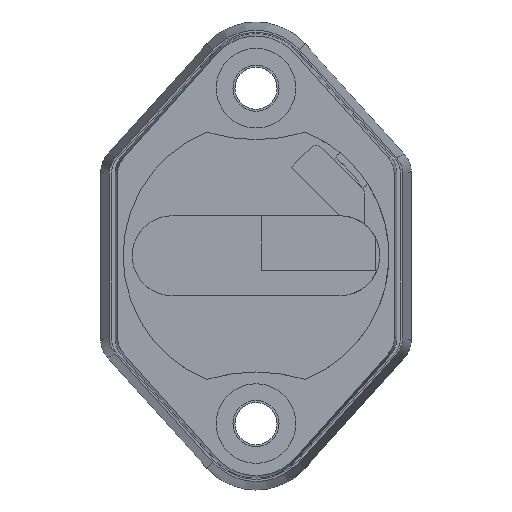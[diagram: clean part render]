
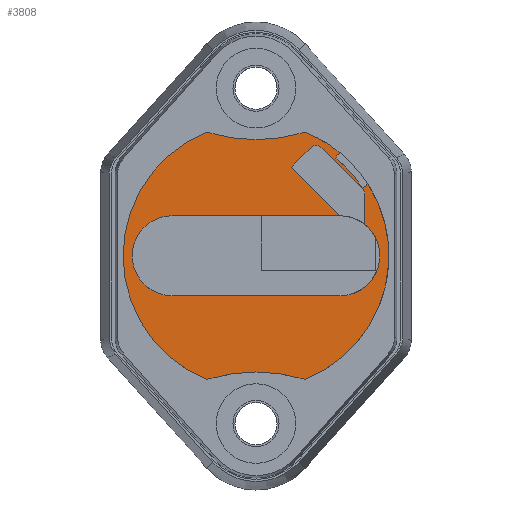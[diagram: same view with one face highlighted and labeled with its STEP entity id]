
A CAD part, top view. The second image highlights one B-rep face of the part: STEP entity #3808.
In plain terms, the highlighted planar face has unit normal (0, 0, 1).
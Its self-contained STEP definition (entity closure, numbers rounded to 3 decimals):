
#289=PLANE('',#4308);
#496=FACE_OUTER_BOUND('',#734,.T.);
#734=EDGE_LOOP('',(#3409,#3410,#3411,#3412,#3413,#3414,#3415,#3416));
#842=CIRCLE('',#4284,15.05);
#844=CIRCLE('',#4287,0.848);
#846=CIRCLE('',#4290,0.912);
#850=CIRCLE('',#4296,19.865);
#852=CIRCLE('',#4299,19.865);
#853=CIRCLE('',#4301,15.85);
#854=CIRCLE('',#4302,15.85);
#857=CIRCLE('',#4306,15.85);
#1839=VERTEX_POINT('',#11318);
#1840=VERTEX_POINT('',#11319);
#1843=VERTEX_POINT('',#11327);
#1845=VERTEX_POINT('',#11333);
#1849=VERTEX_POINT('',#11344);
#1850=VERTEX_POINT('',#11346);
#1853=VERTEX_POINT('',#11353);
#1854=VERTEX_POINT('',#11355);
#2358=EDGE_CURVE('',#1839,#1840,#842,.T.);
#2362=EDGE_CURVE('',#1840,#1843,#844,.T.);
#2365=EDGE_CURVE('',#1845,#1839,#846,.T.);
#2371=EDGE_CURVE('',#1850,#1849,#850,.T.);
#2375=EDGE_CURVE('',#1854,#1853,#852,.T.);
#2377=EDGE_CURVE('',#1843,#1850,#853,.T.);
#2378=EDGE_CURVE('',#1853,#1845,#854,.T.);
#2381=EDGE_CURVE('',#1849,#1854,#857,.T.);
#3409=ORIENTED_EDGE('',*,*,#2362,.T.);
#3410=ORIENTED_EDGE('',*,*,#2377,.T.);
#3411=ORIENTED_EDGE('',*,*,#2371,.T.);
#3412=ORIENTED_EDGE('',*,*,#2381,.T.);
#3413=ORIENTED_EDGE('',*,*,#2375,.T.);
#3414=ORIENTED_EDGE('',*,*,#2378,.T.);
#3415=ORIENTED_EDGE('',*,*,#2365,.T.);
#3416=ORIENTED_EDGE('',*,*,#2358,.T.);
#3808=ADVANCED_FACE('',(#496),#289,.T.);
#4284=AXIS2_PLACEMENT_3D('',#11320,#5168,#5169);
#4287=AXIS2_PLACEMENT_3D('',#11328,#5176,#5177);
#4290=AXIS2_PLACEMENT_3D('',#11334,#5183,#5184);
#4296=AXIS2_PLACEMENT_3D('',#11347,#5197,#5198);
#4299=AXIS2_PLACEMENT_3D('',#11356,#5205,#5206);
#4301=AXIS2_PLACEMENT_3D('',#11359,#5210,#5211);
#4302=AXIS2_PLACEMENT_3D('',#11360,#5212,#5213);
#4306=AXIS2_PLACEMENT_3D('',#11364,#5220,#5221);
#4308=AXIS2_PLACEMENT_3D('',#11366,#5224,#5225);
#5168=DIRECTION('center_axis',(0.,0.,1.));
#5169=DIRECTION('ref_axis',(0.84,0.543,0.));
#5176=DIRECTION('center_axis',(0.,0.,-1.));
#5177=DIRECTION('ref_axis',(-0.383,0.924,0.));
#5183=DIRECTION('center_axis',(0.,0.,-1.));
#5184=DIRECTION('ref_axis',(0.119,-0.993,0.));
#5197=DIRECTION('center_axis',(0.,0.,-1.));
#5198=DIRECTION('ref_axis',(-0.294,-0.956,0.));
#5205=DIRECTION('center_axis',(0.,0.,-1.));
#5206=DIRECTION('ref_axis',(0.294,0.956,0.));
#5210=DIRECTION('center_axis',(0.,0.,1.));
#5211=DIRECTION('ref_axis',(1.,0.,0.));
#5212=DIRECTION('center_axis',(0.,0.,1.));
#5213=DIRECTION('ref_axis',(1.,0.,0.));
#5220=DIRECTION('center_axis',(0.,0.,1.));
#5221=DIRECTION('ref_axis',(1.,0.,0.));
#5224=DIRECTION('center_axis',(0.,0.,1.));
#5225=DIRECTION('ref_axis',(1.,0.,0.));
#11318=CARTESIAN_POINT('',(12.639,8.17,3.8));
#11319=CARTESIAN_POINT('',(9.535,11.644,3.8));
#11320=CARTESIAN_POINT('Origin',(0.,0.,
3.8));
#11327=CARTESIAN_POINT('',(10.042,12.263,3.8));
#11328=CARTESIAN_POINT('Origin',(10.367,11.48,3.8));
#11333=CARTESIAN_POINT('',(13.311,8.605,3.8));
#11334=CARTESIAN_POINT('Origin',(12.53,9.076,3.8));
#11344=CARTESIAN_POINT('',(-5.85,14.731,3.8));
#11346=CARTESIAN_POINT('',(5.85,14.731,3.8));
#11347=CARTESIAN_POINT('Origin',(0.,33.715,
3.8));
#11353=CARTESIAN_POINT('',(5.85,-14.731,3.8));
#11355=CARTESIAN_POINT('',(-5.85,-14.731,3.8));
#11356=CARTESIAN_POINT('Origin',(0.,-33.715,
3.8));
#11359=CARTESIAN_POINT('Origin',(0.,0.,3.8));
#11360=CARTESIAN_POINT('Origin',(0.,0.,3.8));
#11364=CARTESIAN_POINT('Origin',(0.,0.,3.8));
#11366=CARTESIAN_POINT('Origin',(0.,0.,3.8));
